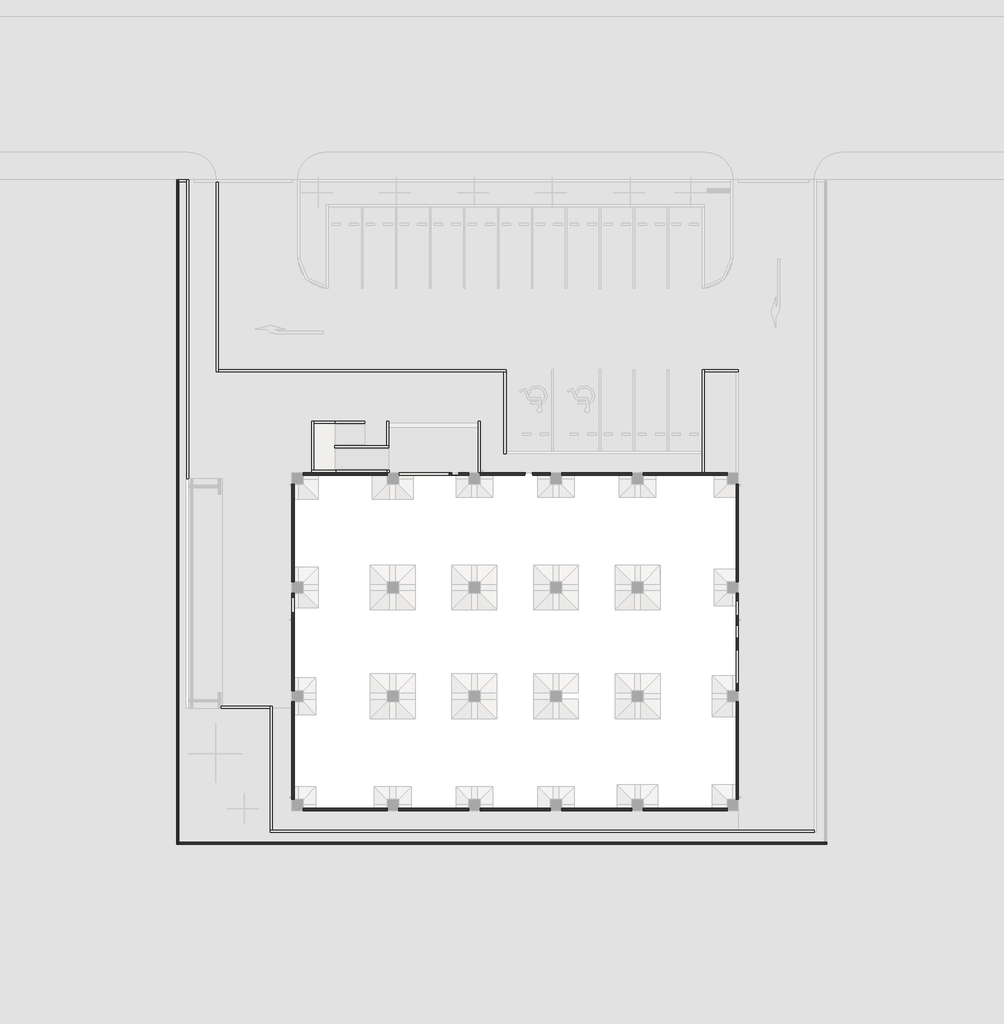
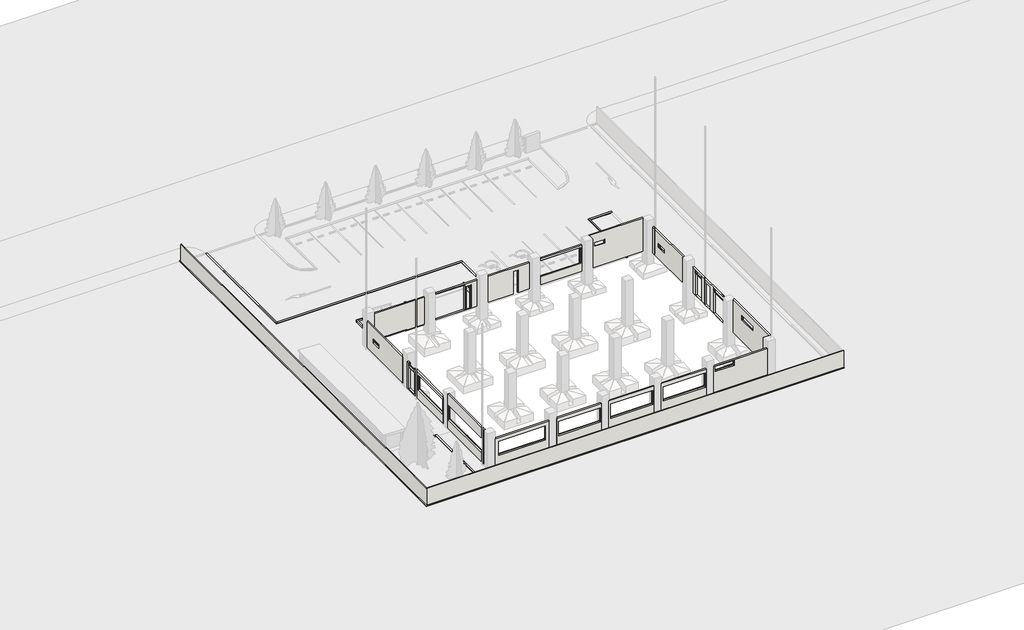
# One storey, part 1 of 4: 26 walls.
"""IFC4 building model written with IfcOpenShell, lengths in millimetres."""

from ifc_helpers import new_model, si_unit, frame, origin, place, context, project, spatial, polyline, outline, extrude, faceted_brep, element, save

model = new_model("IFC4")

# Units and contexts
model_context = context("Model", 3, world=origin())
ifc_project = project(units=[si_unit("LENGTHUNIT", "METRE", prefix="MILLI")], contexts=[model_context])

# Site, building, storey
site = spatial("IfcSite", under=ifc_project)
building = spatial("IfcBuilding", under=site)
storey = spatial("IfcBuildingStorey", under=building, Name="設計GL=平均地盤面", Elevation=-300.0)

# Walls
placement = place(None, origin())
element("IfcWall", 1, ObjectType="(外壁)RC150+20", at=placement, inside=storey, context=model_context, shape_type="Brep", body=[
    faceted_brep([(-250.0, 14112.5, 3100.0), (-250.0, 8420.0, 3100.0), (-250.0, 8420.0, -100.0), (-250.0, 15580.0, -100.0), (-250.0, 15580.0, 3100.0), (-250.0, 15292.5, 3100.0), (-250.0, 15292.5, 2765.0), (-250.0, 14112.5, 2765.0), (-250.0, 15262.5, 2570.0), (-250.0, 15262.5, 0.0), (-250.0, 14152.5, 0.0), (-250.0, 14152.5, 2570.0), (-250.0, 13410.0, 2720.0), (-250.0, 13410.0, 1065.0), (-250.0, 8590.0, 1065.0), (-250.0, 8590.0, 2720.0), (-420.0, 8420.0, 3100.0), (-420.0, 14142.5, 3100.0), (-420.0, 14142.5, 2675.0), (-420.0, 15262.5, 2675.0), (-420.0, 15262.5, 3100.0), (-420.0, 15580.0, 3100.0), (-420.0, 15580.0, -100.0), (-420.0, 8420.0, -100.0), (-420.0, 15262.5, 0.0), (-420.0, 15262.5, 2570.0), (-420.0, 14152.5, 2570.0), (-420.0, 14152.5, 0.0), (-420.0, 8620.0, 975.0), (-420.0, 13380.0, 975.0), (-420.0, 13380.0, 2695.0), (-420.0, 8620.0, 2695.0), (-260.0, 13410.0, 2720.0), (-260.0, 13410.0, 1065.0), (-260.0, 8590.0, 1065.0), (-260.0, 8590.0, 2720.0), (-260.0, 13400.0, 1065.0), (-260.0, 8600.0, 1065.0), (-260.0, 8600.0, 2715.0), (-260.0, 13400.0, 2715.0), (-360.0, 13400.0, 2715.0), (-360.0, 13400.0, 982.5), (-260.0, 13400.0, 995.0), (-260.0, 8600.0, 995.0), (-360.0, 8600.0, 982.5), (-360.0, 8600.0, 2715.0), (-360.0, 13380.0, 982.5), (-360.0, 8620.0, 982.5), (-360.0, 8620.0, 2695.0), (-360.0, 13380.0, 2695.0), (-290.0, 14112.5, 3100.0), (-290.0, 14122.5, 3100.0), (-360.0, 14122.5, 3100.0), (-360.0, 14142.5, 3100.0), (-360.0, 15262.5, 3100.0), (-360.0, 15282.5, 3100.0), (-290.0, 15282.5, 3100.0), (-290.0, 15292.5, 3100.0), (-290.0, 15292.5, 2765.0), (-290.0, 14112.5, 2765.0), (-290.0, 15282.5, 2765.0), (-290.0, 14122.5, 2765.0), (-360.0, 15282.5, 2684.2307692), (-290.0, 15282.5, 2695.0), (-290.0, 14122.5, 2695.0), (-360.0, 14122.5, 2684.2307692), (-360.0, 15262.5, 2684.2307692), (-360.0, 14142.5, 2684.2307692)], [[[0, 1, 2, 3, 4, 5, 6, 7], [8, 9, 10, 11], [12, 13, 14, 15]], [[16, 17, 18, 19, 20, 21, 22, 23], [24, 25, 26, 27], [28, 29, 30, 31]], [[9, 8, 25, 24]], [[10, 9, 24, 27]], [[11, 10, 27, 26]], [[8, 11, 26, 25]], [[32, 33, 13, 12]], [[34, 35, 15, 14]], [[13, 33, 36, 37, 34, 14]], [[33, 32, 35, 34, 37, 38, 39, 36]], [[32, 12, 15, 35]], [[36, 39, 40, 41, 42]], [[38, 37, 43, 44, 45]], [[42, 41, 46, 29, 28, 47, 44, 43]], [[41, 40, 45, 44, 47, 48, 49, 46]], [[39, 38, 45, 40]], [[37, 36, 42, 43]], [[29, 46, 49, 30]], [[47, 28, 31, 48]], [[49, 48, 31, 30]], [[1, 16, 23, 2]], [[21, 4, 3, 22]], [[1, 0, 50, 51, 52, 53, 17, 16]], [[5, 4, 21, 20, 54, 55, 56, 57]], [[58, 6, 5, 57]], [[7, 59, 50, 0]], [[58, 60, 61, 59, 7, 6]], [[60, 58, 57, 56]], [[59, 61, 51, 50]], [[62, 63, 60, 56, 55]], [[64, 65, 52, 51, 61]], [[63, 62, 66, 19, 18, 67, 65, 64]], [[66, 62, 55, 54]], [[65, 67, 53, 52]], [[61, 60, 63, 64]], [[19, 66, 54, 20]], [[67, 18, 17, 53]], [[3, 2, 23, 22]]]),
    faceted_brep([(-250.0, 23580.0, 3100.0), (-250.0, 16420.0, 3100.0), (-250.0, 16420.0, -10.0), (-250.0, 23580.0, -10.0), (-250.0, 22325.0, 1785.0), (-250.0, 22325.0, 1365.0), (-250.0, 21145.0, 1365.0), (-250.0, 21145.0, 1785.0), (-420.0, 16420.0, 3100.0), (-420.0, 23580.0, 3100.0), (-420.0, 23580.0, -10.0), (-420.0, 16420.0, -10.0), (-420.0, 21175.0, 1275.0), (-420.0, 22295.0, 1275.0), (-420.0, 22295.0, 1760.0), (-420.0, 21175.0, 1760.0), (-290.0, 22325.0, 1785.0), (-290.0, 22325.0, 1365.0), (-290.0, 21145.0, 1365.0), (-290.0, 21145.0, 1785.0), (-290.0, 22315.0, 1365.0), (-290.0, 21155.0, 1365.0), (-290.0, 21155.0, 1780.0), (-290.0, 22315.0, 1780.0), (-360.0, 22315.0, 1780.0), (-360.0, 22315.0, 1284.2307692), (-290.0, 22315.0, 1295.0), (-290.0, 21155.0, 1295.0), (-360.0, 21155.0, 1284.2307692), (-360.0, 21155.0, 1780.0), (-360.0, 22295.0, 1284.2307692), (-360.0, 21175.0, 1284.2307692), (-360.0, 21175.0, 1760.0), (-360.0, 22295.0, 1760.0)], [[[0, 1, 2, 3], [4, 5, 6, 7]], [[8, 9, 10, 11], [12, 13, 14, 15]], [[11, 2, 1, 8]], [[3, 10, 9, 0]], [[1, 0, 9, 8]], [[16, 17, 5, 4]], [[18, 19, 7, 6]], [[5, 17, 20, 21, 18, 6]], [[17, 16, 19, 18, 21, 22, 23, 20]], [[16, 4, 7, 19]], [[20, 23, 24, 25, 26]], [[22, 21, 27, 28, 29]], [[26, 25, 30, 13, 12, 31, 28, 27]], [[25, 24, 29, 28, 31, 32, 33, 30]], [[23, 22, 29, 24]], [[21, 20, 26, 27]], [[13, 30, 33, 14]], [[31, 12, 15, 32]], [[33, 32, 15, 14]], [[3, 2, 11, 10]]]),
    faceted_brep([(-250.0, 420.0, -100.0), (-250.0, 7580.0, -100.0), (-250.0, 7580.0, 3100.0), (-250.0, 7580.0, 3850.0), (-250.0, 7580.0, 4000.0), (-250.0, 420.0, 4000.0), (-250.0, 420.0, 3850.0), (-250.0, 420.0, 3100.0), (-250.0, 7465.0, 2720.0), (-250.0, 7465.0, 1065.0), (-250.0, 835.0, 1065.0), (-250.0, 835.0, 2720.0), (-420.0, 420.0, 4000.0), (-420.0, 7580.0, 4000.0), (-420.0, 7580.0, -100.0), (-420.0, 420.0, -100.0), (-420.0, 865.0, 975.0), (-420.0, 7435.0, 975.0), (-420.0, 7435.0, 2695.0), (-420.0, 865.0, 2695.0), (-260.0, 7465.0, 2720.0), (-260.0, 7465.0, 1065.0), (-260.0, 835.0, 1065.0), (-260.0, 835.0, 2720.0), (-260.0, 7455.0, 1065.0), (-260.0, 845.0, 1065.0), (-260.0, 845.0, 2715.0), (-260.0, 7455.0, 2715.0), (-360.0, 7455.0, 2715.0), (-360.0, 7455.0, 982.5), (-260.0, 7455.0, 995.0), (-260.0, 845.0, 995.0), (-360.0, 845.0, 982.5), (-360.0, 845.0, 2715.0), (-360.0, 7435.0, 982.5), (-360.0, 865.0, 982.5), (-360.0, 865.0, 2695.0), (-360.0, 7435.0, 2695.0)], [[[0, 1, 2, 3, 4, 5, 6, 7], [8, 9, 10, 11]], [[12, 13, 14, 15], [16, 17, 18, 19]], [[12, 5, 4, 13]], [[20, 21, 9, 8]], [[22, 23, 11, 10]], [[9, 21, 24, 25, 22, 10]], [[21, 20, 23, 22, 25, 26, 27, 24]], [[20, 8, 11, 23]], [[24, 27, 28, 29, 30]], [[26, 25, 31, 32, 33]], [[30, 29, 34, 17, 16, 35, 32, 31]], [[29, 28, 33, 32, 35, 36, 37, 34]], [[27, 26, 33, 28]], [[25, 24, 30, 31]], [[17, 34, 37, 18]], [[35, 16, 19, 36]], [[37, 36, 19, 18]], [[15, 0, 7, 6, 5, 12]], [[1, 14, 13, 4, 3, 2]], [[1, 0, 15, 14]]]),
])
element("IfcWall", 2, ObjectType="(外壁)RC150+20", at=placement, inside=storey, context=model_context, shape_type="Brep", body=[
    faceted_brep([(7420.0, 24250.0, 3050.0), (11140.0, 24250.0, 3050.0), (11140.0, 24250.0, 0.0), (7420.0, 24250.0, 0.0), (7420.0, 24250.0, -10.0), (12580.0, 24250.0, -10.0), (12580.0, 24250.0, 3150.0), (7420.0, 24250.0, 3150.0), (11890.0, 24250.0, 2795.0), (11890.0, 24250.0, 40.0), (11310.0, 24250.0, 40.0), (11310.0, 24250.0, 2795.0), (11140.0, 24420.0, 3050.0), (7420.0, 24420.0, 3050.0), (7420.0, 24420.0, 3150.0), (12580.0, 24420.0, 3150.0), (12580.0, 24420.0, -10.0), (11860.0, 24420.0, -10.0), (11860.0, 24420.0, 2770.0), (11340.0, 24420.0, 2770.0), (11340.0, 24420.0, -10.0), (7420.0, 24420.0, -10.0), (7420.0, 24420.0, 0.0), (11140.0, 24420.0, 0.0), (11340.0, 24360.0, -10.0), (11320.0, 24360.0, -10.0), (11320.0, 24260.0, -10.0), (11880.0, 24260.0, -10.0), (11880.0, 24360.0, -10.0), (11860.0, 24360.0, -10.0), (11890.0, 24260.0, 2795.0), (11890.0, 24260.0, 40.0), (11310.0, 24260.0, 40.0), (11310.0, 24260.0, 2795.0), (11320.0, 24260.0, 40.0), (11880.0, 24260.0, 40.0), (11880.0, 24260.0, 2790.0), (11320.0, 24260.0, 2790.0), (11880.0, 24360.0, 2790.0), (11320.0, 24360.0, 2790.0), (11340.0, 24360.0, 2770.0), (11860.0, 24360.0, 2770.0)], [[[0, 1, 2, 3, 4, 5, 6, 7], [8, 9, 10, 11]], [[12, 13, 14, 15, 16, 17, 18, 19, 20, 21, 22, 23]], [[12, 1, 0, 13]], [[23, 2, 1, 12]], [[2, 23, 22, 3]], [[21, 4, 3, 22]], [[7, 14, 13, 0]], [[15, 6, 5, 16]], [[7, 6, 15, 14]], [[5, 4, 21, 20, 24, 25, 26, 27, 28, 29, 17, 16]], [[30, 31, 9, 8]], [[32, 33, 11, 10]], [[34, 32, 10, 9, 31, 35]], [[36, 35, 31, 30, 33, 32, 34, 37]], [[33, 30, 8, 11]], [[35, 36, 38, 28, 27]], [[37, 34, 26, 25, 39]], [[40, 41, 29, 28, 38, 39, 25, 24]], [[36, 37, 39, 38]], [[34, 35, 27, 26]], [[41, 18, 17, 29]], [[19, 40, 24, 20]], [[18, 41, 40, 19]]]),
    faceted_brep([(6580.0, 24250.0, 3150.0), (420.0, 24250.0, 3150.0), (420.0, 24250.0, -10.0), (4075.0, 24250.0, -10.0), (4514.0, 24250.0, -10.0), (4514.0, 24250.0, -100.0), (6580.0, 24250.0, -100.0), (420.0, 24420.0, 3150.0), (6580.0, 24420.0, 3150.0), (6580.0, 24420.0, -300.0), (4514.0, 24420.0, -300.0), (4514.0, 24420.0, -10.0), (420.0, 24420.0, -10.0), (6580.0, 24400.0, -100.0), (6580.0, 24400.0, -300.0), (4514.0, 24400.0, -100.0), (4514.0, 24400.0, -300.0)], [[[0, 1, 2, 3, 4, 5, 6]], [[7, 8, 9, 10, 11, 12]], [[8, 0, 6, 13, 14, 9]], [[12, 2, 1, 7]], [[1, 0, 8, 7]], [[4, 3, 2, 12, 11]], [[13, 15, 16, 14]], [[15, 13, 6, 5]], [[4, 11, 10, 16, 15, 5]], [[10, 9, 14, 16]]]),
    faceted_brep([(18580.0, 24250.0, 3150.0), (13420.0, 24250.0, 3150.0), (13420.0, 24250.0, -10.0), (16710.0, 24250.0, -10.0), (16710.0, 24250.0, 2720.0), (17290.0, 24250.0, 2720.0), (17290.0, 24250.0, -10.0), (18580.0, 24250.0, -10.0), (13420.0, 24420.0, 3150.0), (18580.0, 24420.0, 3150.0), (18580.0, 24420.0, -10.0), (17260.0, 24420.0, -10.0), (17260.0, 24420.0, 2695.0), (16740.0, 24420.0, 2695.0), (16740.0, 24420.0, -10.0), (13420.0, 24420.0, -10.0), (16740.0, 24360.0, -10.0), (16720.0, 24360.0, -10.0), (16720.0, 24260.0, -10.0), (16710.0, 24260.0, -10.0), (17290.0, 24260.0, -10.0), (17280.0, 24260.0, -10.0), (17280.0, 24360.0, -10.0), (17260.0, 24360.0, -10.0), (16710.0, 24260.0, 2720.0), (17290.0, 24260.0, 2720.0), (16720.0, 24260.0, 2715.0), (17280.0, 24260.0, 2715.0), (16720.0, 24360.0, 2715.0), (17280.0, 24360.0, 2715.0), (16740.0, 24360.0, 2695.0), (17260.0, 24360.0, 2695.0)], [[[0, 1, 2, 3, 4, 5, 6, 7]], [[8, 9, 10, 11, 12, 13, 14, 15]], [[15, 2, 1, 8]], [[7, 10, 9, 0]], [[1, 0, 9, 8]], [[3, 2, 15, 14, 16, 17, 18, 19]], [[7, 6, 20, 21, 22, 23, 11, 10]], [[24, 4, 3, 19]], [[5, 25, 20, 6]], [[26, 27, 21, 20, 25, 24, 19, 18]], [[24, 25, 5, 4]], [[28, 26, 18, 17]], [[27, 29, 22, 21]], [[30, 31, 23, 22, 29, 28, 17, 16]], [[27, 26, 28, 29]], [[13, 30, 16, 14]], [[31, 12, 11, 23]], [[30, 13, 12, 31]]]),
    faceted_brep([(24580.0, 24250.0, 3150.0), (19420.0, 24250.0, 3150.0), (19420.0, 24250.0, -10.0), (24580.0, 24250.0, -10.0), (24410.0, 24250.0, 2920.0), (24410.0, 24250.0, 1065.0), (19590.0, 24250.0, 1065.0), (19590.0, 24250.0, 2920.0), (19420.0, 24420.0, 3150.0), (24580.0, 24420.0, 3150.0), (24580.0, 24420.0, -10.0), (19420.0, 24420.0, -10.0), (19620.0, 24420.0, 975.0), (24380.0, 24420.0, 975.0), (24380.0, 24420.0, 2895.0), (19620.0, 24420.0, 2895.0), (24410.0, 24260.0, 2920.0), (24410.0, 24260.0, 1065.0), (19590.0, 24260.0, 1065.0), (19590.0, 24260.0, 2920.0), (24400.0, 24260.0, 1065.0), (19600.0, 24260.0, 1065.0), (19600.0, 24260.0, 2915.0), (24400.0, 24260.0, 2915.0), (24400.0, 24360.0, 2915.0), (24400.0, 24360.0, 982.5), (24400.0, 24260.0, 995.0), (19600.0, 24260.0, 995.0), (19600.0, 24360.0, 982.5), (19600.0, 24360.0, 2915.0), (24380.0, 24360.0, 982.5), (19620.0, 24360.0, 982.5), (19620.0, 24360.0, 2895.0), (24380.0, 24360.0, 2895.0)], [[[0, 1, 2, 3], [4, 5, 6, 7]], [[8, 9, 10, 11], [12, 13, 14, 15]], [[16, 17, 5, 4]], [[18, 19, 7, 6]], [[5, 17, 20, 21, 18, 6]], [[17, 16, 19, 18, 21, 22, 23, 20]], [[16, 4, 7, 19]], [[20, 23, 24, 25, 26]], [[22, 21, 27, 28, 29]], [[26, 25, 30, 13, 12, 31, 28, 27]], [[25, 24, 29, 28, 31, 32, 33, 30]], [[23, 22, 29, 24]], [[21, 20, 26, 27]], [[13, 30, 33, 14]], [[31, 12, 15, 32]], [[33, 32, 15, 14]], [[11, 2, 1, 8]], [[3, 10, 9, 0]], [[1, 0, 9, 8]], [[3, 2, 11, 10]]]),
    faceted_brep([(31580.0, 24250.0, 4000.0), (28200.0, 24250.0, 4000.0), (25420.0, 24250.0, 4000.0), (25420.0, 24250.0, 3940.0), (25420.0, 24250.0, 3150.0), (25420.0, 24250.0, -10.0), (31580.0, 24250.0, -10.0), (27190.0, 24250.0, 2935.0), (27190.0, 24250.0, 2515.0), (26010.0, 24250.0, 2515.0), (26010.0, 24250.0, 2935.0), (25420.0, 24420.0, 4000.0), (31580.0, 24420.0, 4000.0), (31580.0, 24420.0, -10.0), (25420.0, 24420.0, -10.0), (26040.0, 24420.0, 2425.0), (27160.0, 24420.0, 2425.0), (27160.0, 24420.0, 2910.0), (26040.0, 24420.0, 2910.0), (25420.0, 24335.0, 4000.0), (27190.0, 24290.0, 2935.0), (27190.0, 24290.0, 2515.0), (26010.0, 24290.0, 2515.0), (26010.0, 24290.0, 2935.0), (27180.0, 24290.0, 2515.0), (26020.0, 24290.0, 2515.0), (26020.0, 24290.0, 2930.0), (27180.0, 24290.0, 2930.0), (27180.0, 24360.0, 2930.0), (27180.0, 24360.0, 2434.2307692), (27180.0, 24290.0, 2445.0), (26020.0, 24290.0, 2445.0), (26020.0, 24360.0, 2434.2307692), (26020.0, 24360.0, 2930.0), (27160.0, 24360.0, 2434.2307692), (26040.0, 24360.0, 2434.2307692), (26040.0, 24360.0, 2910.0), (27160.0, 24360.0, 2910.0)], [[[0, 1, 2, 3, 4, 5, 6], [7, 8, 9, 10]], [[11, 12, 13, 14], [15, 16, 17, 18]], [[14, 5, 4, 3, 2, 19, 11]], [[6, 13, 12, 0]], [[20, 21, 8, 7]], [[22, 23, 10, 9]], [[8, 21, 24, 25, 22, 9]], [[21, 20, 23, 22, 25, 26, 27, 24]], [[20, 7, 10, 23]], [[24, 27, 28, 29, 30]], [[26, 25, 31, 32, 33]], [[30, 29, 34, 16, 15, 35, 32, 31]], [[29, 28, 33, 32, 35, 36, 37, 34]], [[27, 26, 33, 28]], [[25, 24, 30, 31]], [[16, 34, 37, 17]], [[35, 15, 18, 36]], [[37, 36, 18, 17]], [[6, 5, 14, 13]], [[2, 1, 0, 12, 11, 19]]]),
])
element("IfcWall", 3, ObjectType="(外壁)RC150+20", at=placement, inside=storey, context=model_context, shape_type="Brep", body=[
    faceted_brep([(32250.0, 8420.0, 3100.0), (32250.0, 15580.0, 3100.0), (32250.0, 15580.0, -10.0), (32250.0, 13555.0, -10.0), (32250.0, 8420.0, -10.0), (32250.0, 11430.0, 0.0), (32250.0, 11430.0, 2585.0), (32250.0, 8930.0, 2585.0), (32250.0, 8930.0, 0.0), (32250.0, 15035.0, 0.0), (32250.0, 15035.0, 2570.0), (32250.0, 13925.0, 2570.0), (32250.0, 13925.0, 0.0), (32250.0, 8890.0, 3085.0), (32250.0, 8890.0, 2665.0), (32250.0, 11470.0, 2665.0), (32250.0, 11470.0, 3085.0), (32250.0, 13895.0, 3070.0), (32250.0, 13895.0, 2650.0), (32250.0, 15075.0, 2650.0), (32250.0, 15075.0, 3070.0), (32250.0, 13205.0, 0.0), (32250.0, 13205.0, 2685.0), (32250.0, 12255.0, 2685.0), (32250.0, 12255.0, 0.0), (32420.0, 15580.0, 3100.0), (32420.0, 8420.0, 3100.0), (32420.0, 8420.0, -10.0), (32420.0, 15580.0, -10.0), (32420.0, 11430.0, 0.0), (32420.0, 8930.0, 0.0), (32420.0, 8930.0, 2575.0), (32420.0, 8920.0, 2575.0), (32420.0, 8920.0, 3060.0), (32420.0, 11440.0, 3060.0), (32420.0, 11440.0, 2575.0), (32420.0, 11430.0, 2575.0), (32420.0, 15035.0, 0.0), (32420.0, 13925.0, 0.0), (32420.0, 13925.0, 3045.0), (32420.0, 15045.0, 3045.0), (32420.0, 15045.0, 2560.0), (32420.0, 15035.0, 2560.0), (32420.0, 13205.0, 2685.0), (32420.0, 13205.0, 0.0), (32420.0, 12255.0, 0.0), (32420.0, 12255.0, 2685.0), (32355.0, 11430.0, 2585.0), (32355.0, 8930.0, 2585.0), (32355.0, 15035.0, 2570.0), (32355.0, 13925.0, 2570.0), (32360.0, 13925.0, 2569.2307692), (32360.0, 13925.0, 3045.0), (32290.0, 8890.0, 3085.0), (32290.0, 8890.0, 2665.0), (32290.0, 11470.0, 2665.0), (32290.0, 11470.0, 3085.0), (32290.0, 8900.0, 2665.0), (32290.0, 11460.0, 2665.0), (32290.0, 11460.0, 3080.0), (32290.0, 8900.0, 3080.0), (32360.0, 8900.0, 3080.0), (32360.0, 8900.0, 2584.2307692), (32290.0, 8900.0, 2595.0), (32290.0, 11460.0, 2595.0), (32360.0, 11460.0, 2584.2307692), (32360.0, 11460.0, 3080.0), (32360.0, 8920.0, 2584.2307692), (32360.0, 11440.0, 2584.2307692), (32360.0, 11440.0, 3060.0), (32360.0, 8920.0, 3060.0), (32290.0, 13895.0, 3070.0), (32290.0, 13895.0, 2650.0), (32290.0, 15075.0, 2650.0), (32290.0, 15075.0, 3070.0), (32290.0, 13905.0, 2650.0), (32290.0, 15065.0, 2650.0), (32290.0, 15065.0, 3065.0), (32290.0, 13905.0, 3065.0), (32360.0, 13905.0, 3065.0), (32360.0, 13905.0, 2569.2307692), (32290.0, 13905.0, 2580.0), (32290.0, 15065.0, 2580.0), (32360.0, 15065.0, 2569.2307692), (32360.0, 15065.0, 3065.0), (32360.0, 15045.0, 2569.2307692), (32360.0, 15045.0, 3045.0)], [[[0, 1, 2, 3, 4], [5, 6, 7, 8], [9, 10, 11, 12], [13, 14, 15, 16], [17, 18, 19, 20], [21, 22, 23, 24]], [[25, 26, 27, 28], [29, 30, 31, 32, 33, 34, 35, 36], [37, 38, 39, 40, 41, 42], [43, 44, 45, 46]], [[6, 5, 29, 36, 47]], [[30, 29, 5, 8]], [[8, 7, 48, 31, 30]], [[7, 6, 47, 48]], [[10, 9, 37, 42, 49]], [[38, 37, 9, 12]], [[12, 11, 50, 51, 52, 39, 38]], [[11, 10, 49, 50]], [[4, 27, 26, 0]], [[28, 2, 1, 25]], [[1, 0, 26, 25]], [[53, 54, 14, 13]], [[55, 56, 16, 15]], [[54, 57, 58, 55, 15, 14]], [[54, 53, 56, 55, 58, 59, 60, 57]], [[56, 53, 13, 16]], [[57, 60, 61, 62, 63]], [[59, 58, 64, 65, 66]], [[63, 62, 67, 32, 31, 48, 47, 36, 35, 68, 65, 64]], [[62, 61, 66, 65, 68, 69, 70, 67]], [[60, 59, 66, 61]], [[58, 57, 63, 64]], [[32, 67, 70, 33]], [[68, 35, 34, 69]], [[70, 69, 34, 33]], [[71, 72, 18, 17]], [[73, 74, 20, 19]], [[72, 75, 76, 73, 19, 18]], [[72, 71, 74, 73, 76, 77, 78, 75]], [[74, 71, 17, 20]], [[75, 78, 79, 80, 81]], [[77, 76, 82, 83, 84]], [[81, 80, 51, 50, 49, 42, 41, 85, 83, 82]], [[80, 79, 84, 83, 85, 86, 52, 51]], [[78, 77, 84, 79]], [[76, 75, 81, 82]], [[85, 41, 40, 86]], [[52, 86, 40, 39]], [[4, 3, 2, 28, 27]], [[44, 43, 22, 21]], [[45, 44, 21, 24]], [[46, 45, 24, 23]], [[43, 46, 23, 22]]]),
    faceted_brep([(32250.0, 16420.0, 3100.0), (32250.0, 23580.0, 3100.0), (32250.0, 23580.0, -10.0), (32250.0, 16420.0, -10.0), (32250.0, 21210.0, 1785.0), (32250.0, 21210.0, 1365.0), (32250.0, 22390.0, 1365.0), (32250.0, 22390.0, 1785.0), (32420.0, 23580.0, 3100.0), (32420.0, 16420.0, 3100.0), (32420.0, 16420.0, -10.0), (32420.0, 23580.0, -10.0), (32420.0, 22360.0, 1275.0), (32420.0, 21240.0, 1275.0), (32420.0, 21240.0, 1760.0), (32420.0, 22360.0, 1760.0), (32290.0, 21210.0, 1785.0), (32290.0, 21210.0, 1365.0), (32290.0, 22390.0, 1365.0), (32290.0, 22390.0, 1785.0), (32290.0, 21220.0, 1365.0), (32290.0, 22380.0, 1365.0), (32290.0, 22380.0, 1780.0), (32290.0, 21220.0, 1780.0), (32360.0, 21220.0, 1780.0), (32360.0, 21220.0, 1284.2307692), (32290.0, 21220.0, 1295.0), (32290.0, 22380.0, 1295.0), (32360.0, 22380.0, 1284.2307692), (32360.0, 22380.0, 1780.0), (32360.0, 21240.0, 1284.2307692), (32360.0, 22360.0, 1284.2307692), (32360.0, 22360.0, 1760.0), (32360.0, 21240.0, 1760.0)], [[[0, 1, 2, 3], [4, 5, 6, 7]], [[8, 9, 10, 11], [12, 13, 14, 15]], [[9, 0, 3, 10]], [[1, 8, 11, 2]], [[1, 0, 9, 8]], [[16, 17, 5, 4]], [[18, 19, 7, 6]], [[5, 17, 20, 21, 18, 6]], [[17, 16, 19, 18, 21, 22, 23, 20]], [[16, 4, 7, 19]], [[20, 23, 24, 25, 26]], [[22, 21, 27, 28, 29]], [[26, 25, 30, 13, 12, 31, 28, 27]], [[25, 24, 29, 28, 31, 32, 33, 30]], [[23, 22, 29, 24]], [[21, 20, 26, 27]], [[13, 30, 33, 14]], [[31, 12, 15, 32]], [[33, 32, 15, 14]], [[3, 2, 11, 10]]]),
    faceted_brep([(32250.0, 420.0, 4000.0), (32250.0, 7580.0, 4000.0), (32250.0, 7580.0, 3940.0), (32250.0, 7580.0, 3100.0), (32250.0, 7580.0, -10.0), (32250.0, 420.0, -10.0), (32250.0, 420.0, 3100.0), (32250.0, 420.0, 3940.0), (32250.0, 3710.0, 3085.0), (32250.0, 3710.0, 2565.0), (32250.0, 5890.0, 2565.0), (32250.0, 5890.0, 3085.0), (32420.0, 7580.0, 4000.0), (32420.0, 420.0, 4000.0), (32420.0, 420.0, -10.0), (32420.0, 7580.0, -10.0), (32420.0, 5860.0, 2475.0), (32420.0, 3740.0, 2475.0), (32420.0, 3740.0, 3060.0), (32420.0, 5860.0, 3060.0), (32325.0, 420.0, 4000.0), (32325.0, 7580.0, 4000.0), (32290.0, 3710.0, 3085.0), (32290.0, 3710.0, 2565.0), (32290.0, 5890.0, 2565.0), (32290.0, 5890.0, 3085.0), (32290.0, 3720.0, 2565.0), (32290.0, 5880.0, 2565.0), (32290.0, 5880.0, 3080.0), (32290.0, 3720.0, 3080.0), (32360.0, 3720.0, 3080.0), (32360.0, 3720.0, 2484.2307692), (32290.0, 3720.0, 2495.0), (32290.0, 5880.0, 2495.0), (32360.0, 5880.0, 2484.2307692), (32360.0, 5880.0, 3080.0), (32360.0, 3740.0, 2484.2307692), (32360.0, 5860.0, 2484.2307692), (32360.0, 5860.0, 3060.0), (32360.0, 3740.0, 3060.0)], [[[0, 1, 2, 3, 4, 5, 6, 7], [8, 9, 10, 11]], [[12, 13, 14, 15], [16, 17, 18, 19]], [[0, 20, 13, 12, 21, 1]], [[13, 20, 0, 7, 6, 5, 14]], [[1, 21, 12, 15, 4, 3, 2]], [[22, 23, 9, 8]], [[24, 25, 11, 10]], [[9, 23, 26, 27, 24, 10]], [[23, 22, 25, 24, 27, 28, 29, 26]], [[22, 8, 11, 25]], [[26, 29, 30, 31, 32]], [[28, 27, 33, 34, 35]], [[32, 31, 36, 17, 16, 37, 34, 33]], [[31, 30, 35, 34, 37, 38, 39, 36]], [[29, 28, 35, 30]], [[27, 26, 32, 33]], [[17, 36, 39, 18]], [[37, 16, 19, 38]], [[39, 38, 19, 18]], [[5, 4, 15, 14]]]),
])
element("IfcWall", 4, ObjectType="(外壁)RC150+20", at=placement, inside=storey, context=model_context, shape_type="Brep", body=[
    faceted_brep([(25420.0, -250.0, 3150.0), (31580.0, -250.0, 3150.0), (31580.0, -250.0, -10.0), (25420.0, -250.0, -10.0), (25572.7, -250.0, 3085.0), (25572.7, -250.0, 2565.0), (27752.7, -250.0, 2565.0), (27752.7, -250.0, 3085.0), (31580.0, -420.0, 3150.0), (25420.0, -420.0, 3150.0), (25420.0, -420.0, -10.0), (31580.0, -420.0, -10.0), (27722.7, -420.0, 2475.0), (25602.7, -420.0, 2475.0), (25602.7, -420.0, 3060.0), (27722.7, -420.0, 3060.0), (25572.7, -290.0, 3085.0), (25572.7, -290.0, 2565.0), (27752.7, -290.0, 2565.0), (27752.7, -290.0, 3085.0), (25582.7, -290.0, 2565.0), (27742.7, -290.0, 2565.0), (27742.7, -290.0, 3080.0), (25582.7, -290.0, 3080.0), (25582.7, -360.0, 3080.0), (25582.7, -360.0, 2484.2307692), (25582.7, -290.0, 2495.0), (27742.7, -290.0, 2495.0), (27742.7, -360.0, 2484.2307692), (27742.7, -360.0, 3080.0), (25602.7, -360.0, 2484.2307692), (27722.7, -360.0, 2484.2307692), (27722.7, -360.0, 3060.0), (25602.7, -360.0, 3060.0)], [[[0, 1, 2, 3], [4, 5, 6, 7]], [[8, 9, 10, 11], [12, 13, 14, 15]], [[16, 17, 5, 4]], [[18, 19, 7, 6]], [[5, 17, 20, 21, 18, 6]], [[17, 16, 19, 18, 21, 22, 23, 20]], [[16, 4, 7, 19]], [[20, 23, 24, 25, 26]], [[22, 21, 27, 28, 29]], [[26, 25, 30, 13, 12, 31, 28, 27]], [[25, 24, 29, 28, 31, 32, 33, 30]], [[23, 22, 29, 24]], [[21, 20, 26, 27]], [[13, 30, 33, 14]], [[31, 12, 15, 32]], [[33, 32, 15, 14]], [[9, 0, 3, 10]], [[1, 8, 11, 2]], [[1, 0, 9, 8]], [[3, 2, 11, 10]]]),
    faceted_brep([(19420.0, -250.0, 3150.0), (24580.0, -250.0, 3150.0), (24580.0, -250.0, -100.0), (22175.0, -250.0, -100.0), (19420.0, -250.0, -100.0), (19621.2951348, -250.0, 2720.0), (19621.2951348, -250.0, 1065.0), (24441.2951348, -250.0, 1065.0), (24441.2951348, -250.0, 2720.0), (24580.0, -420.0, 3150.0), (19420.0, -420.0, 3150.0), (19420.0, -420.0, -100.0), (24580.0, -420.0, -100.0), (24411.2951348, -420.0, 975.0), (19651.2951348, -420.0, 975.0), (19651.2951348, -420.0, 2695.0), (24411.2951348, -420.0, 2695.0), (19621.2951348, -260.0, 2720.0), (19621.2951348, -260.0, 1065.0), (24441.2951348, -260.0, 1065.0), (24441.2951348, -260.0, 2720.0), (19631.2951348, -260.0, 1065.0), (24431.2951348, -260.0, 1065.0), (24431.2951348, -260.0, 2715.0), (19631.2951348, -260.0, 2715.0), (19631.2951348, -360.0, 2715.0), (19631.2951348, -360.0, 982.5), (19631.2951348, -260.0, 995.0), (24431.2951348, -260.0, 995.0), (24431.2951348, -360.0, 982.5), (24431.2951348, -360.0, 2715.0), (19651.2951348, -360.0, 982.5), (24411.2951348, -360.0, 982.5), (24411.2951348, -360.0, 2695.0), (19651.2951348, -360.0, 2695.0), (19420.0, -335.0, -100.0)], [[[0, 1, 2, 3, 4], [5, 6, 7, 8]], [[9, 10, 11, 12], [13, 14, 15, 16]], [[17, 18, 6, 5]], [[19, 20, 8, 7]], [[6, 18, 21, 22, 19, 7]], [[18, 17, 20, 19, 22, 23, 24, 21]], [[17, 5, 8, 20]], [[21, 24, 25, 26, 27]], [[23, 22, 28, 29, 30]], [[27, 26, 31, 14, 13, 32, 29, 28]], [[26, 25, 30, 29, 32, 33, 34, 31]], [[24, 23, 30, 25]], [[22, 21, 27, 28]], [[14, 31, 34, 15]], [[32, 13, 16, 33]], [[34, 33, 16, 15]], [[4, 35, 11, 10, 0]], [[12, 2, 1, 9]], [[1, 0, 10, 9]], [[4, 3, 2, 12, 11, 35]]]),
    faceted_brep([(13420.0, -250.0, 3150.0), (18580.0, -250.0, 3150.0), (18580.0, -250.0, -100.0), (13420.0, -250.0, -100.0), (13621.2951348, -250.0, 2720.0), (13621.2951348, -250.0, 1065.0), (18441.2951348, -250.0, 1065.0), (18441.2951348, -250.0, 2720.0), (18580.0, -420.0, 3150.0), (13420.0, -420.0, 3150.0), (13420.0, -420.0, -100.0), (18580.0, -420.0, -100.0), (18411.2951348, -420.0, 975.0), (13651.2951348, -420.0, 975.0), (13651.2951348, -420.0, 2695.0), (18411.2951348, -420.0, 2695.0), (13420.0, -335.0, -100.0), (18580.0, -335.0, -100.0), (13621.2951348, -260.0, 2720.0), (13621.2951348, -260.0, 1065.0), (18441.2951348, -260.0, 1065.0), (18441.2951348, -260.0, 2720.0), (13631.2951348, -260.0, 1065.0), (18431.2951348, -260.0, 1065.0), (18431.2951348, -260.0, 2715.0), (13631.2951348, -260.0, 2715.0), (13631.2951348, -360.0, 2715.0), (13631.2951348, -360.0, 982.5), (13631.2951348, -260.0, 995.0), (18431.2951348, -260.0, 995.0), (18431.2951348, -360.0, 982.5), (18431.2951348, -360.0, 2715.0), (13651.2951348, -360.0, 982.5), (18411.2951348, -360.0, 982.5), (18411.2951348, -360.0, 2695.0), (13651.2951348, -360.0, 2695.0)], [[[0, 1, 2, 3], [4, 5, 6, 7]], [[8, 9, 10, 11], [12, 13, 14, 15]], [[3, 16, 10, 9, 0]], [[11, 17, 2, 1, 8]], [[1, 0, 9, 8]], [[3, 2, 17, 11, 10, 16]], [[18, 19, 5, 4]], [[20, 21, 7, 6]], [[5, 19, 22, 23, 20, 6]], [[19, 18, 21, 20, 23, 24, 25, 22]], [[18, 4, 7, 21]], [[22, 25, 26, 27, 28]], [[24, 23, 29, 30, 31]], [[28, 27, 32, 13, 12, 33, 30, 29]], [[27, 26, 31, 30, 33, 34, 35, 32]], [[25, 24, 31, 26]], [[23, 22, 28, 29]], [[13, 32, 35, 14]], [[33, 12, 15, 34]], [[35, 34, 15, 14]]]),
    faceted_brep([(7420.0, -250.0, 3150.0), (12580.0, -250.0, 3150.0), (12580.0, -250.0, -100.0), (7420.0, -250.0, -100.0), (7621.2951348, -250.0, 2720.0), (7621.2951348, -250.0, 1065.0), (12441.2951348, -250.0, 1065.0), (12441.2951348, -250.0, 2720.0), (12580.0, -420.0, 3150.0), (7420.0, -420.0, 3150.0), (7420.0, -420.0, -100.0), (12580.0, -420.0, -100.0), (12411.2951348, -420.0, 975.0), (7651.2951348, -420.0, 975.0), (7651.2951348, -420.0, 2695.0), (12411.2951348, -420.0, 2695.0), (12580.0, -335.0, -100.0), (7420.0, -335.0, -100.0), (7621.2951348, -260.0, 2720.0), (7621.2951348, -260.0, 1065.0), (12441.2951348, -260.0, 1065.0), (12441.2951348, -260.0, 2720.0), (7631.2951348, -260.0, 1065.0), (12431.2951348, -260.0, 1065.0), (12431.2951348, -260.0, 2715.0), (7631.2951348, -260.0, 2715.0), (7631.2951348, -360.0, 2715.0), (7631.2951348, -360.0, 982.5), (7631.2951348, -260.0, 995.0), (12431.2951348, -260.0, 995.0), (12431.2951348, -360.0, 982.5), (12431.2951348, -360.0, 2715.0), (7651.2951348, -360.0, 982.5), (12411.2951348, -360.0, 982.5), (12411.2951348, -360.0, 2695.0), (7651.2951348, -360.0, 2695.0)], [[[0, 1, 2, 3], [4, 5, 6, 7]], [[8, 9, 10, 11], [12, 13, 14, 15]], [[11, 16, 2, 1, 8]], [[3, 17, 10, 9, 0]], [[1, 0, 9, 8]], [[3, 2, 16, 11, 10, 17]], [[18, 19, 5, 4]], [[20, 21, 7, 6]], [[5, 19, 22, 23, 20, 6]], [[19, 18, 21, 20, 23, 24, 25, 22]], [[18, 4, 7, 21]], [[22, 25, 26, 27, 28]], [[24, 23, 29, 30, 31]], [[28, 27, 32, 13, 12, 33, 30, 29]], [[27, 26, 31, 30, 33, 34, 35, 32]], [[25, 24, 31, 26]], [[23, 22, 28, 29]], [[13, 32, 35, 14]], [[33, 12, 15, 34]], [[35, 34, 15, 14]]]),
    faceted_brep([(420.0, -250.0, 3150.0), (6580.0, -250.0, 3150.0), (6580.0, -250.0, -100.0), (420.0, -250.0, -100.0), (763.7951348, -250.0, 2720.0), (763.7951348, -250.0, 1065.0), (6188.7951348, -250.0, 1065.0), (6188.7951348, -250.0, 2720.0), (6580.0, -420.0, 3150.0), (420.0, -420.0, 3150.0), (420.0, -420.0, -100.0), (6580.0, -420.0, -100.0), (6158.7951348, -420.0, 975.0), (793.7951348, -420.0, 975.0), (793.7951348, -420.0, 2695.0), (6158.7951348, -420.0, 2695.0), (763.7951348, -260.0, 2720.0), (763.7951348, -260.0, 1065.0), (6188.7951348, -260.0, 1065.0), (6188.7951348, -260.0, 2720.0), (773.7951348, -260.0, 1065.0), (6178.7951348, -260.0, 1065.0), (6178.7951348, -260.0, 2715.0), (773.7951348, -260.0, 2715.0), (773.7951348, -360.0, 2715.0), (773.7951348, -360.0, 982.5), (773.7951348, -260.0, 995.0), (6178.7951348, -260.0, 995.0), (6178.7951348, -360.0, 982.5), (6178.7951348, -360.0, 2715.0), (793.7951348, -360.0, 982.5), (6158.7951348, -360.0, 982.5), (6158.7951348, -360.0, 2695.0), (793.7951348, -360.0, 2695.0), (420.0, -335.0, -100.0), (6580.0, -335.0, -100.0)], [[[0, 1, 2, 3], [4, 5, 6, 7]], [[8, 9, 10, 11], [12, 13, 14, 15]], [[16, 17, 5, 4]], [[18, 19, 7, 6]], [[5, 17, 20, 21, 18, 6]], [[17, 16, 19, 18, 21, 22, 23, 20]], [[16, 4, 7, 19]], [[20, 23, 24, 25, 26]], [[22, 21, 27, 28, 29]], [[26, 25, 30, 13, 12, 31, 28, 27]], [[25, 24, 29, 28, 31, 32, 33, 30]], [[23, 22, 29, 24]], [[21, 20, 26, 27]], [[13, 30, 33, 14]], [[31, 12, 15, 32]], [[33, 32, 15, 14]], [[3, 34, 10, 9, 0]], [[11, 35, 2, 1, 8]], [[1, 0, 9, 8]], [[3, 2, 35, 11, 10, 34]]]),
])
element("IfcWall", 5, ObjectType="(外構)縁石", at=placement, inside=storey, context=model_context, shape_type="Brep", body=[
    faceted_brep([(-8150.0, 46000.0, -300.0), (-8150.0, 45850.0, -300.0), (-8150.0, 24000.0, -300.0), (-8150.0, 24000.0, -200.0), (-8150.0, 45850.0, -200.0), (-8150.0, 46000.0, -200.0), (-8000.0, 46000.0, -300.0), (-8000.0, 46000.0, -200.0), (-8000.0, 24000.0, -200.0), (-8000.0, 24000.0, -300.0)], [[[0, 1, 2, 3, 4, 5]], [[6, 7, 8, 9]], [[2, 1, 0, 6, 9]], [[3, 2, 9, 8]], [[5, 4, 3, 8, 7]], [[0, 5, 7, 6]]]),
])
element("IfcWall", 6, ObjectType="(外構)縁石", at=placement, inside=storey, context=model_context, shape_type="Brep", body=[
    faceted_brep([(-6000.0, 45790.0, -300.0), (-6000.0, 31850.0, -300.0), (-6000.0, 31850.0, -200.0), (-6000.0, 45790.0, -200.0), (-5850.0, 45790.0, -300.0), (-5850.0, 45790.0, -200.0), (-5850.0, 32000.0, -200.0), (-5850.0, 31850.0, -200.0), (-5850.0, 31850.0, -300.0), (-5850.0, 32000.0, -300.0)], [[[0, 1, 2, 3]], [[4, 5, 6, 7, 8, 9]], [[1, 0, 4, 9, 8]], [[3, 2, 7, 6, 5]], [[0, 3, 5, 4]], [[2, 1, 8, 7]]]),
])
element("IfcWall", 7, ObjectType="(外構)縁石", at=placement, inside=storey, context=model_context, shape_type="Brep", body=[
    faceted_brep([(38000.0, -1850.0, -300.0), (-1850.0, -1850.0, -300.0), (-2000.0, -1850.0, -300.0), (-2000.0, -1850.0, -200.0), (-1850.0, -1850.0, -200.0), (38000.0, -1850.0, -200.0), (38000.0, -2000.0, -300.0), (38000.0, -2000.0, -200.0), (-2000.0, -2000.0, -200.0), (-2000.0, -2000.0, -300.0)], [[[0, 1, 2, 3, 4, 5]], [[6, 7, 8, 9]], [[2, 1, 0, 6, 9]], [[5, 4, 3, 8, 7]], [[0, 5, 7, 6]], [[3, 2, 9, 8]]]),
])
element("IfcWall", 8, ObjectType="(外構)縁石", at=placement, inside=storey, context=model_context, shape_type="Brep", body=[
    faceted_brep([(-1850.0, -1850.0, -300.0), (-1850.0, 7250.0, -300.0), (-1850.0, 7250.0, -200.0), (-1850.0, -1850.0, -200.0), (-2000.0, -1850.0, -300.0), (-2000.0, -1850.0, -200.0), (-2000.0, 7100.0, -200.0), (-2000.0, 7250.0, -200.0), (-2000.0, 7250.0, -300.0), (-2000.0, 7100.0, -300.0)], [[[0, 1, 2, 3]], [[4, 5, 6, 7, 8, 9]], [[1, 0, 4, 9, 8]], [[3, 2, 7, 6, 5]], [[0, 3, 5, 4]], [[2, 1, 8, 7]]]),
])
element("IfcWall", 9, ObjectType="(外構)縁石", at=placement, inside=storey, context=model_context, shape_type="SweptSolid", body=[
    extrude(outline(polyline([(-5750.0, 7250.0), (-2000.0, 7250.0), (-2000.0, 7100.0), (-5750.0, 7100.0), (-5750.0, 7250.0)])), frame((0.0, 0.0, -300.0), z_axis=(0.0, 0.0, 1.0), x_axis=(1.0, 0.0, 0.0)), (0.0, 0.0, 1.0), 100.0),
])
element("IfcWall", 10, ObjectType="(外構)縁石", at=placement, inside=storey, context=model_context, shape_type="Brep", body=[
    faceted_brep([(-8150.0, 46000.0, -300.0), (-8900.0, 46000.0, -300.0), (-8900.0, 46000.0, -200.0), (-8150.0, 46000.0, -200.0), (-8150.0, 45850.0, -300.0), (-8150.0, 45850.0, -200.0), (-8750.0, 45850.0, -200.0), (-8900.0, 45850.0, -200.0), (-8900.0, 45850.0, -300.0), (-8750.0, 45850.0, -300.0)], [[[0, 1, 2, 3]], [[4, 5, 6, 7, 8, 9]], [[1, 0, 4, 9, 8]], [[3, 2, 7, 6, 5]], [[0, 3, 5, 4]], [[2, 1, 8, 7]]]),
])
element("IfcWall", 11, ObjectType="(外構)縁石", at=placement, inside=storey, context=model_context, shape_type="Brep", body=[
    faceted_brep([(29900.0, 24420.0, -300.0), (29900.0, 31850.0, -300.0), (29900.0, 32000.0, -300.0), (29900.0, 32000.0, -200.0), (29900.0, 31850.0, -200.0), (29900.0, 24420.0, -200.0), (29750.0, 24420.0, -300.0), (29750.0, 24420.0, -200.0), (29750.0, 32000.0, -200.0), (29750.0, 32000.0, -300.0)], [[[0, 1, 2, 3, 4, 5]], [[6, 7, 8, 9]], [[2, 1, 0, 6, 9]], [[5, 4, 3, 8, 7]], [[0, 5, 7, 6]], [[3, 2, 9, 8]]]),
])
element("IfcWall", 12, ObjectType="(外構)縁石", at=placement, inside=storey, context=model_context, shape_type="Brep", body=[
    faceted_brep([(29900.0, 31850.0, -300.0), (32270.0, 31850.0, -300.0), (32420.0, 31850.0, -300.0), (32420.0, 31850.0, -200.0), (32270.0, 31850.0, -200.0), (29900.0, 31850.0, -200.0), (29900.0, 32000.0, -300.0), (29900.0, 32000.0, -200.0), (32420.0, 32000.0, -200.0), (32420.0, 32000.0, -300.0)], [[[0, 1, 2, 3, 4, 5]], [[6, 7, 8, 9]], [[2, 1, 0, 6, 9]], [[5, 4, 3, 8, 7]], [[0, 5, 7, 6]], [[3, 2, 9, 8]]]),
])
element("IfcWall", 13, ObjectType="(外構)縁石", at=placement, inside=storey, context=model_context, shape_type="Brep", body=[
    faceted_brep([(-5850.0, 31850.0, -300.0), (15175.0, 31850.0, -300.0), (15325.0, 31850.0, -300.0), (15325.0, 31850.0, -200.0), (15175.0, 31850.0, -200.0), (-5850.0, 31850.0, -200.0), (-5850.0, 32000.0, -300.0), (-5850.0, 32000.0, -200.0), (15325.0, 32000.0, -200.0), (15325.0, 32000.0, -300.0)], [[[0, 1, 2, 3, 4, 5]], [[6, 7, 8, 9]], [[2, 1, 0, 6, 9]], [[5, 4, 3, 8, 7]], [[0, 5, 7, 6]], [[3, 2, 9, 8]]]),
])
element("IfcWall", 14, ObjectType="(外構)縁石", at=placement, inside=storey, context=model_context, shape_type="SweptSolid", body=[
    extrude(outline(polyline([(15175.0, 25850.0), (15175.0, 31850.0), (15325.0, 31850.0), (15325.0, 25850.0), (15175.0, 25850.0)])), frame((0.0, 0.0, -300.0), z_axis=(0.0, 0.0, 1.0), x_axis=(1.0, 0.0, 0.0)), (0.0, 0.0, 1.0), 100.0),
])
element("IfcWall", 15, ObjectType="(外構)縁石", at=placement, inside=storey, context=model_context, shape_type="Brep", body=[
    faceted_brep([(-8900.0, 45850.0, -300.0), (-8900.0, -2900.0, -300.0), (-8900.0, -2900.0, -200.0), (-8900.0, 45850.0, -200.0), (-8750.0, 45850.0, -300.0), (-8750.0, 45850.0, -200.0), (-8750.0, -2750.0, -200.0), (-8750.0, -2830.0, -200.0), (-8750.0, -2900.0, -200.0), (-8750.0, -2900.0, -300.0), (-8750.0, -2750.0, -300.0)], [[[0, 1, 2, 3]], [[4, 5, 6, 7, 8, 9, 10]], [[1, 0, 4, 10, 9]], [[3, 2, 8, 7, 6, 5]], [[2, 1, 9, 8]], [[0, 3, 5, 4]]]),
])
element("IfcWall", 16, ObjectType="(外構)目隠しフェンス", at=placement, inside=storey, context=model_context, shape_type="Brep", body=[
    faceted_brep([(-8830.0, 45925.0, -200.0), (-8830.0, -2830.0, -200.0), (-8830.0, -2830.0, 1800.0), (-8830.0, 45925.0, 1800.0), (-8750.0, 45925.0, -200.0), (-8750.0, 45925.0, 1800.0), (-8750.0, -2750.0, 1800.0), (-8750.0, -2830.0, 1800.0), (-8750.0, -2830.0, -200.0), (-8750.0, -2750.0, -200.0), (-8750.0, 45850.0, -200.0)], [[[0, 1, 2, 3]], [[4, 5, 6, 7, 8, 9, 10]], [[1, 0, 4, 10, 9, 8]], [[3, 2, 7, 6, 5]], [[0, 3, 5, 4]], [[2, 1, 8, 7]]]),
])
element("IfcWall", 17, ObjectType="(外構)縁石", at=placement, inside=storey, context=model_context, shape_type="Brep", body=[
    faceted_brep([(-8750.0, -2900.0, -300.0), (38925.0, -2900.0, -300.0), (38925.0, -2900.0, -200.0), (-8750.0, -2900.0, -200.0), (-8750.0, -2750.0, -300.0), (-8750.0, -2750.0, -200.0), (38775.0, -2750.0, -200.0), (38855.0, -2750.0, -200.0), (38925.0, -2750.0, -200.0), (38925.0, -2750.0, -300.0), (38775.0, -2750.0, -300.0), (-8750.0, -2830.0, -200.0)], [[[0, 1, 2, 3]], [[4, 5, 6, 7, 8, 9, 10]], [[1, 0, 4, 10, 9]], [[3, 2, 8, 7, 6, 5, 11]], [[2, 1, 9, 8]], [[0, 3, 11, 5, 4]]]),
])
element("IfcWall", 18, ObjectType="(外構)目隠しフェンス", at=placement, inside=storey, context=model_context, shape_type="Brep", body=[
    faceted_brep([(-8750.0, -2830.0, -200.0), (38855.0, -2830.0, -200.0), (38855.0, -2830.0, 1800.0), (-8750.0, -2830.0, 1800.0), (-8750.0, -2750.0, -200.0), (-8750.0, -2750.0, 1800.0), (38775.0, -2750.0, 1800.0), (38855.0, -2750.0, 1800.0), (38855.0, -2750.0, -200.0), (38775.0, -2750.0, -200.0)], [[[0, 1, 2, 3]], [[4, 5, 6, 7, 8, 9]], [[1, 0, 4, 9, 8]], [[3, 2, 7, 6, 5]], [[2, 1, 8, 7]], [[0, 3, 5, 4]]]),
])
element("IfcWall", 19, ObjectType="(外壁)RC150", at=placement, inside=storey, context=model_context, shape_type="SweptSolid", body=[
    extrude(outline(polyline([(13420.0, 28225.0), (13420.0, 24420.0), (13270.0, 24420.0), (13270.0, 28225.0), (13420.0, 28225.0)])), frame((0.0, 0.0, -300.0), z_axis=(0.0, 0.0, 1.0), x_axis=(1.0, 0.0, 0.0)), (0.0, 0.0, 1.0), 450.0),
])
element("IfcWall", 20, ObjectType="(外壁)RC150", at=placement, inside=storey, context=model_context, shape_type="Brep", body=[
    faceted_brep([(1030.0, 24475.0, -300.0), (2815.3987464, 24475.0, -300.0), (2815.3987464, 24475.0, -45.0), (1030.0, 24475.0, -45.0), (1030.0, 24625.0, -300.0), (1030.0, 24625.0, -45.0), (1180.0, 24625.0, -45.0), (2815.3987464, 24625.0, -45.0), (2815.3987464, 24625.0, -300.0), (1180.0, 24625.0, -300.0)], [[[0, 1, 2, 3]], [[4, 5, 6, 7, 8, 9]], [[1, 0, 4, 9, 8]], [[2, 1, 8, 7]], [[3, 2, 7, 6, 5]], [[0, 3, 5, 4]]]),
])
element("IfcWall", 21, ObjectType="(外壁)RC150", at=placement, inside=storey, context=model_context, shape_type="SweptSolid", body=[
    extrude(outline(polyline([(1180.0, 28225.0), (1180.0, 24625.0), (1030.0, 24625.0), (1030.0, 28225.0), (1180.0, 28225.0)])), frame((0.0, 0.0, -300.0), z_axis=(0.0, 0.0, 1.0), x_axis=(1.0, 0.0, 0.0)), (0.0, 0.0, 1.0), 255.0),
])
element("IfcWall", 22, ObjectType="(外壁)RC150", at=placement, inside=storey, context=model_context, shape_type="SweptSolid", body=[
    extrude(outline(polyline([(-300.0, 1030.0), (-300.0, 4930.0), (-150.0, 4930.0), (-45.0, 2715.0), (-45.0, 1030.0), (-300.0, 1030.0)])), frame((0.0, 28075.0, 0.0), z_axis=(0.0, 1.0, 0.0), x_axis=(0.0, 0.0, 1.0)), (0.0, 0.0, 1.0), 150.0),
])
element("IfcWall", 23, ObjectType="(外壁)RC150", at=placement, inside=storey, context=model_context, shape_type="Brep", body=[
    faceted_brep([(2715.0, 26275.0, -300.0), (6715.3987464, 26275.0, -300.0), (6715.3987464, 26275.0, 150.0), (2715.0, 26275.0, 150.0), (2715.0, 26425.0, -300.0), (2715.0, 26425.0, 150.0), (6565.3987464, 26425.0, 150.0), (6715.3987464, 26425.0, 150.0), (6715.3987464, 26425.0, -300.0), (6565.3987464, 26425.0, -300.0)], [[[0, 1, 2, 3]], [[4, 5, 6, 7, 8, 9]], [[1, 0, 4, 9, 8]], [[3, 2, 7, 6, 5]], [[0, 3, 5, 4]], [[2, 1, 8, 7]]]),
])
element("IfcWall", 24, ObjectType="(外壁)RC150", at=placement, inside=storey, context=model_context, shape_type="Brep", body=[
    faceted_brep([(6730.0, 24420.0, -300.0), (6730.0, 24625.0, -300.0), (6730.0, 24625.0, 100.0), (6730.0, 24420.0, 100.0), (6580.0, 24420.0, -300.0), (6580.0, 24420.0, 100.0), (6580.0, 24625.0, 100.0), (6580.0, 24625.0, 97.1676746), (6580.0, 24625.0, -300.0), (6580.0, 24475.0, -300.0)], [[[0, 1, 2, 3]], [[4, 5, 6, 7, 8, 9]], [[1, 0, 4, 9, 8]], [[3, 2, 6, 5]], [[0, 3, 5, 4]], [[2, 1, 8, 7, 6]]]),
])
element("IfcWall", 25, ObjectType="(外壁)RC150", at=placement, inside=storey, context=model_context, shape_type="SweptSolid", body=[
    extrude(outline(polyline([(6715.3987464, 28225.0), (6715.3987464, 26425.0), (6565.3987464, 26425.0), (6565.3987464, 28225.0), (6715.3987464, 28225.0)])), frame((0.0, 0.0, -300.0), z_axis=(0.0, 0.0, 1.0), x_axis=(1.0, 0.0, 0.0)), (0.0, 0.0, 1.0), 450.0),
])
element("IfcWall", 26, ObjectType="(外壁)RC150", at=placement, inside=storey, context=model_context, shape_type="SweptSolid", body=[
    extrude(outline(polyline([(-300.0, 2815.3987464), (-300.0, 6580.0), (97.1676746, 6580.0), (-45.0, 2815.3987464), (-300.0, 2815.3987464)])), frame((0.0, 24475.0, 0.0), z_axis=(0.0, 1.0, 0.0), x_axis=(0.0, 0.0, 1.0)), (0.0, 0.0, 1.0), 150.0),
])

save(model, "model.ifc")
